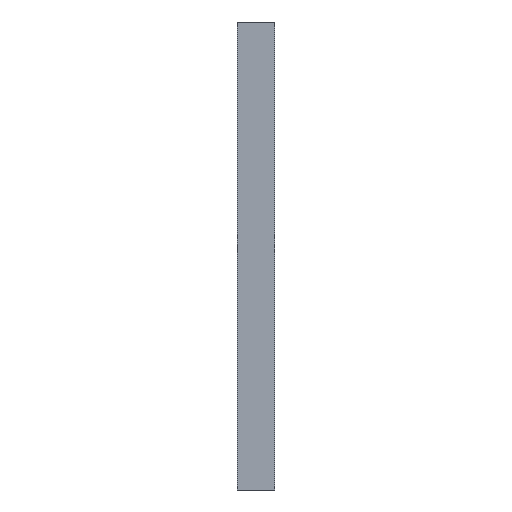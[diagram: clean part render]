
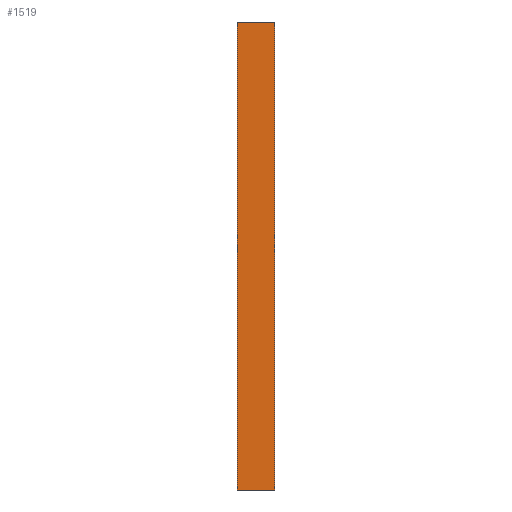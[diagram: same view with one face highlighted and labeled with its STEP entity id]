
A CAD part, left-side view. The second image highlights one B-rep face of the part: STEP entity #1519.
In plain terms, the highlighted planar face has unit normal (-1, 0, 0).
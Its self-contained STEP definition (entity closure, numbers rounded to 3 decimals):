
#135=PLANE('',#1730);
#202=FACE_OUTER_BOUND('',#270,.T.);
#270=EDGE_LOOP('',(#1242,#1243,#1244,#1245));
#458=LINE('',#2562,#534);
#459=LINE('',#2564,#535);
#460=LINE('',#2566,#536);
#461=LINE('',#2567,#537);
#534=VECTOR('',#2164,10.);
#535=VECTOR('',#2165,10.);
#536=VECTOR('',#2166,10.);
#537=VECTOR('',#2167,10.);
#792=VERTEX_POINT('',#2560);
#793=VERTEX_POINT('',#2561);
#794=VERTEX_POINT('',#2563);
#795=VERTEX_POINT('',#2565);
#984=EDGE_CURVE('',#792,#793,#458,.T.);
#985=EDGE_CURVE('',#793,#794,#459,.T.);
#986=EDGE_CURVE('',#795,#794,#460,.T.);
#987=EDGE_CURVE('',#792,#795,#461,.T.);
#1242=ORIENTED_EDGE('',*,*,#984,.T.);
#1243=ORIENTED_EDGE('',*,*,#985,.T.);
#1244=ORIENTED_EDGE('',*,*,#986,.F.);
#1245=ORIENTED_EDGE('',*,*,#987,.F.);
#1519=ADVANCED_FACE('',(#202),#135,.T.);
#1730=AXIS2_PLACEMENT_3D('',#2559,#2162,#2163);
#2162=DIRECTION('center_axis',(-1.,0.,0.));
#2163=DIRECTION('ref_axis',(0.,0.,1.));
#2164=DIRECTION('',(0.,0.,1.));
#2165=DIRECTION('',(0.,1.,0.));
#2166=DIRECTION('',(0.,0.,1.));
#2167=DIRECTION('',(0.,1.,0.));
#2559=CARTESIAN_POINT('Origin',(-250.,0.,-125.));
#2560=CARTESIAN_POINT('',(-250.,0.,-125.));
#2561=CARTESIAN_POINT('',(-250.,0.,0.));
#2562=CARTESIAN_POINT('',(-250.,0.,-125.));
#2563=CARTESIAN_POINT('',(-250.,10.,0.));
#2564=CARTESIAN_POINT('',(-250.,0.,0.));
#2565=CARTESIAN_POINT('',(-250.,10.,-125.));
#2566=CARTESIAN_POINT('',(-250.,10.,-125.));
#2567=CARTESIAN_POINT('',(-250.,0.,-125.));
